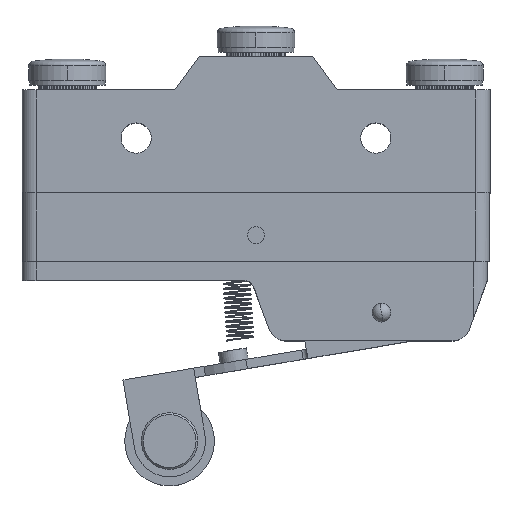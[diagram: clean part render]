
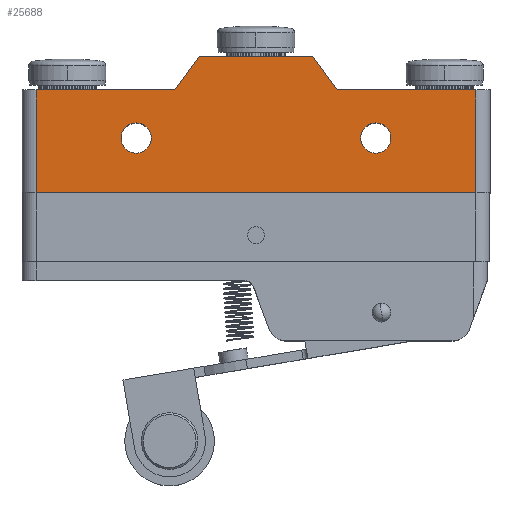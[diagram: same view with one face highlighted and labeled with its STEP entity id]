
A CAD part, top view. The second image highlights one B-rep face of the part: STEP entity #25688.
In plain terms, the highlighted planar face has unit normal (0, 0, 1).
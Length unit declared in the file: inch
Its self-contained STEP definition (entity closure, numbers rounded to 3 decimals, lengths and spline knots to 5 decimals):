
#3304=DIRECTION('',(1.,0.,0.));
#3305=VECTOR('',#3304,46.6);
#3306=CARTESIAN_POINT('',(77.3107,-26.41007,0.));
#3307=LINE('',#3306,#3305);
#3347=DIRECTION('',(0.,-1.,0.));
#3348=VECTOR('',#3347,10.9);
#3349=CARTESIAN_POINT('',(77.3107,-15.51007,0.));
#3350=LINE('',#3349,#3348);
#3419=DIRECTION('',(0.,1.,0.));
#3420=VECTOR('',#3419,10.9);
#3421=CARTESIAN_POINT('',(123.9107,-26.41007,0.));
#3422=LINE('',#3421,#3420);
#3423=DIRECTION('',(0.596,0.803,0.));
#3424=VECTOR('',#3423,4.36005);
#3425=CARTESIAN_POINT('',(92.0107,-15.51007,0.));
#3426=LINE('',#3425,#3424);
#3427=DIRECTION('',(0.596,-0.803,0.));
#3428=VECTOR('',#3427,4.36005);
#3429=CARTESIAN_POINT('',(106.6107,-12.01007,0.));
#3430=LINE('',#3429,#3428);
#3431=CARTESIAN_POINT('',(87.9107,-20.61007,0.));
#3432=DIRECTION('',(0.,0.,1.));
#3433=DIRECTION('',(1.,0.,0.));
#3434=AXIS2_PLACEMENT_3D('',#3431,#3432,#3433);
#3436=CARTESIAN_POINT('',(87.9107,-20.61007,0.));
#3437=DIRECTION('',(0.,0.,1.));
#3438=DIRECTION('',(-1.,0.,0.));
#3439=AXIS2_PLACEMENT_3D('',#3436,#3437,#3438);
#3441=CARTESIAN_POINT('',(113.3107,-20.61007,0.));
#3442=DIRECTION('',(0.,0.,1.));
#3443=DIRECTION('',(1.,0.,0.));
#3444=AXIS2_PLACEMENT_3D('',#3441,#3442,#3443);
#3446=CARTESIAN_POINT('',(113.3107,-20.61007,0.));
#3447=DIRECTION('',(0.,0.,1.));
#3448=DIRECTION('',(-1.,0.,0.));
#3449=AXIS2_PLACEMENT_3D('',#3446,#3447,#3448);
#3460=DIRECTION('',(-1.,0.,0.));
#3461=VECTOR('',#3460,14.7);
#3462=CARTESIAN_POINT('',(92.0107,-15.51007,0.));
#3463=LINE('',#3462,#3461);
#4377=DIRECTION('',(-1.,0.,0.));
#4378=VECTOR('',#4377,12.);
#4379=CARTESIAN_POINT('',(106.6107,-12.01007,0.));
#4380=LINE('',#4379,#4378);
#5298=DIRECTION('',(-1.,0.,0.));
#5299=VECTOR('',#5298,14.7);
#5300=CARTESIAN_POINT('',(123.9107,-15.51007,0.));
#5301=LINE('',#5300,#5299);
#13747=CARTESIAN_POINT('',(111.7107,-20.61007,0.));
#13748=VERTEX_POINT('',#13747);
#13749=CARTESIAN_POINT('',(114.9107,-20.61007,0.));
#13750=VERTEX_POINT('',#13749);
#13751=CARTESIAN_POINT('',(89.5107,-20.61007,0.));
#13752=CARTESIAN_POINT('',(86.3107,-20.61007,0.));
#13753=VERTEX_POINT('',#13751);
#13754=VERTEX_POINT('',#13752);
#13755=CARTESIAN_POINT('',(77.3107,-15.51007,0.));
#13756=CARTESIAN_POINT('',(77.3107,-26.41007,0.));
#13757=VERTEX_POINT('',#13755);
#13758=VERTEX_POINT('',#13756);
#13759=CARTESIAN_POINT('',(92.0107,-15.51007,0.));
#13760=VERTEX_POINT('',#13759);
#13761=CARTESIAN_POINT('',(94.6107,-12.01007,0.));
#13762=VERTEX_POINT('',#13761);
#13763=CARTESIAN_POINT('',(106.6107,-12.01007,0.));
#13764=VERTEX_POINT('',#13763);
#13765=CARTESIAN_POINT('',(109.2107,-15.51007,0.));
#13766=VERTEX_POINT('',#13765);
#13767=CARTESIAN_POINT('',(123.9107,-15.51007,0.));
#13768=VERTEX_POINT('',#13767);
#13769=CARTESIAN_POINT('',(123.9107,-26.41007,0.));
#13770=VERTEX_POINT('',#13769);
#25656=CARTESIAN_POINT('',(100.6107,-19.21007,0.));
#25657=DIRECTION('',(0.,0.,1.));
#25658=DIRECTION('',(1.,0.,0.));
#25659=AXIS2_PLACEMENT_3D('',#25656,#25657,#25658);
#25660=PLANE('',#25659);
#25661=ORIENTED_EDGE('',*,*,#25547,.F.);
#25663=ORIENTED_EDGE('',*,*,#25662,.F.);
#25665=ORIENTED_EDGE('',*,*,#25664,.T.);
#25667=ORIENTED_EDGE('',*,*,#25666,.F.);
#25669=ORIENTED_EDGE('',*,*,#25668,.T.);
#25671=ORIENTED_EDGE('',*,*,#25670,.F.);
#25672=ORIENTED_EDGE('',*,*,#25648,.F.);
#25673=ORIENTED_EDGE('',*,*,#25507,.F.);
#25674=EDGE_LOOP('',(#25661,#25663,#25665,#25667,#25669,#25671,#25672,#25673));
#25675=FACE_OUTER_BOUND('',#25674,.F.);
#25677=ORIENTED_EDGE('',*,*,#25676,.T.);
#25679=ORIENTED_EDGE('',*,*,#25678,.T.);
#25680=EDGE_LOOP('',(#25677,#25679));
#25681=FACE_BOUND('',#25680,.F.);
#25683=ORIENTED_EDGE('',*,*,#25682,.T.);
#25685=ORIENTED_EDGE('',*,*,#25684,.T.);
#25686=EDGE_LOOP('',(#25683,#25685));
#25687=FACE_BOUND('',#25686,.F.);
#25688=ADVANCED_FACE('',(#25675,#25681,#25687),#25660,.T.);
#3435=CIRCLE('',#3434,1.6);
#3440=CIRCLE('',#3439,1.6);
#3445=CIRCLE('',#3444,1.6);
#3450=CIRCLE('',#3449,1.6);
#25507=EDGE_CURVE('',#13758,#13770,#3307,.T.);
#25547=EDGE_CURVE('',#13757,#13758,#3350,.T.);
#25648=EDGE_CURVE('',#13770,#13768,#3422,.T.);
#25662=EDGE_CURVE('',#13760,#13757,#3463,.T.);
#25664=EDGE_CURVE('',#13760,#13762,#3426,.T.);
#25666=EDGE_CURVE('',#13764,#13762,#4380,.T.);
#25668=EDGE_CURVE('',#13764,#13766,#3430,.T.);
#25670=EDGE_CURVE('',#13768,#13766,#5301,.T.);
#25676=EDGE_CURVE('',#13753,#13754,#3435,.T.);
#25678=EDGE_CURVE('',#13754,#13753,#3440,.T.);
#25682=EDGE_CURVE('',#13750,#13748,#3445,.T.);
#25684=EDGE_CURVE('',#13748,#13750,#3450,.T.);
